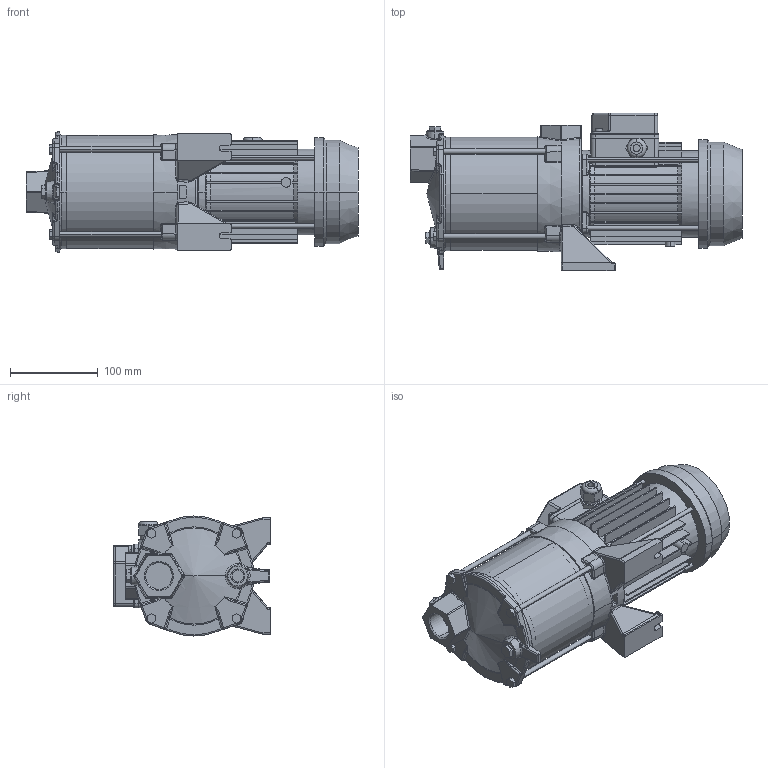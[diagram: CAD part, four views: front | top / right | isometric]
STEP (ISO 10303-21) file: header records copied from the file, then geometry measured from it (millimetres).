
FILE_DESCRIPTION((''),'2;1');
FILE_NAME('COMPACT_L_A_8_ASM','2021-07-23T',('rosa'),('"Ebara Pumps Europe +39.444.706811"'),'PRO/ENGINEER BY PARAMETRIC TECHNOLOGY CORPORATION, 2017170','PRO/ENGINEER BY PARAMETRIC TECHNOLOGY CORPORATION, 2017170','');
FILE_SCHEMA(('AUTOMOTIVE_DESIGN { 1 0 10303 214 1 1 1 1 }'));
Length unit declared in the file: millimetre
Products named in the file (6): MEC_63_TRIFASE_4_TIRANTI_IE3; 80600; 2710X_L-99; 20998; 40012_M6X138; COMPACT_L_A_8_ASM
Assembly tree (8 placements, depth 2):
  COMPACT_L_A_8_ASM
    MEC_63_TRIFASE_4_TIRANTI_IE3
    80600
    2710X_L-99
    20998
    40012_M6X138  x4
Bounding box: 379 x 179.5 x 137 mm (x, y, z)
Volume: 2180753.5 mm3; surface area: 423131.3 mm2
Topology: 8 solids, 8 shells, 1101 faces, 2588 edges, 1529 vertices
Faces by surface type: plane 365, cylinder 318, bspline 244, cone 71, torus 66, sphere 37
Entity records: 51596 total; most frequent: CARTESIAN_POINT 19776, ORIENTED_EDGE 5028, DIRECTION 4493, PRESENTATION_STYLE_ASSIGNMENT 2519, STYLED_ITEM 2519, CURVE_STYLE 2514, EDGE_CURVE 2514, AXIS2_PLACEMENT_3D 1767
